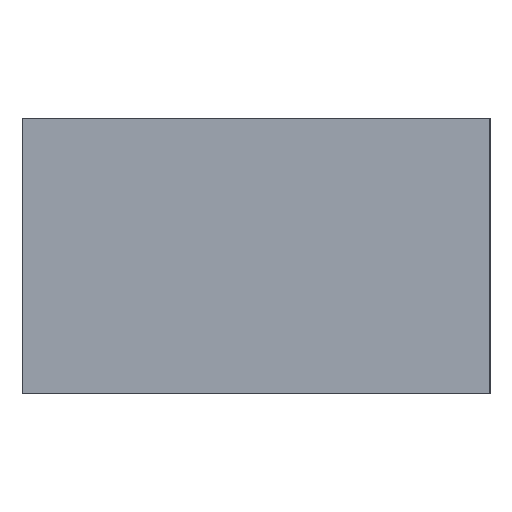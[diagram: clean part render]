
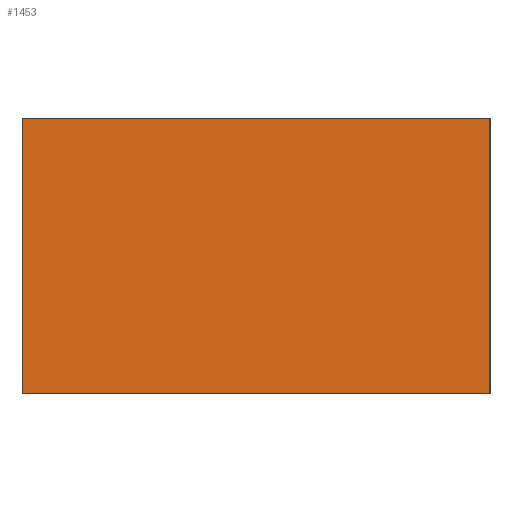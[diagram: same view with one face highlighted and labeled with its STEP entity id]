
A CAD part, left-side view. The second image highlights one B-rep face of the part: STEP entity #1453.
In plain terms, the highlighted planar face has unit normal (-1, 0, 0).
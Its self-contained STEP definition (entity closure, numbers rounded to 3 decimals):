
#446 = VERTEX_POINT ( 'NONE', #1187 ) ;
#513 = ORIENTED_EDGE ( 'NONE', *, *, #1461, .T. ) ;
#516 = VERTEX_POINT ( 'NONE', #1286 ) ;
#1187 = CARTESIAN_POINT ( 'NONE',  ( 0., 0., 0. ) ) ;
#1265 = EDGE_CURVE ( 'NONE', #1463, #446, #1284, .T. ) ;
#1278 = VECTOR ( 'NONE', #1346, 1000. ) ;
#1283 = CARTESIAN_POINT ( 'NONE',  ( 0., 0., 10. ) ) ;
#1284 = LINE ( 'NONE', #1283, #1311 ) ;
#1286 = CARTESIAN_POINT ( 'NONE',  ( 0., 17., 0. ) ) ;
#1305 = PLANE ( 'NONE',  #1345 ) ;
#1310 = DIRECTION ( 'NONE',  ( 0., 0., -1. ) ) ;
#1311 = VECTOR ( 'NONE', #1310, 1000. ) ;
#1316 = FACE_OUTER_BOUND ( 'NONE', #1449, .T. ) ;
#1323 = CARTESIAN_POINT ( 'NONE',  ( 0., 0., 10. ) ) ;
#1324 = CARTESIAN_POINT ( 'NONE',  ( 0., 17., 10. ) ) ;
#1332 = DIRECTION ( 'NONE',  ( 0., 1., 0. ) ) ;
#1333 = DIRECTION ( 'NONE',  ( 1., 0., 0. ) ) ;
#1334 = CARTESIAN_POINT ( 'NONE',  ( 0., 0., 10. ) ) ;
#1337 = CARTESIAN_POINT ( 'NONE',  ( 0., 0., 0. ) ) ;
#1338 = LINE ( 'NONE', #1337, #1362 ) ;
#1340 = DIRECTION ( 'NONE',  ( 0., 0., -1. ) ) ;
#1341 = VECTOR ( 'NONE', #1340, 1000. ) ;
#1342 = CARTESIAN_POINT ( 'NONE',  ( 0., 17., 10. ) ) ;
#1344 = LINE ( 'NONE', #1342, #1341 ) ;
#1345 = AXIS2_PLACEMENT_3D ( 'NONE', #1334, #1333, #1332 ) ;
#1346 = DIRECTION ( 'NONE',  ( 0., -1., 0. ) ) ;
#1350 = CARTESIAN_POINT ( 'NONE',  ( 0., 0., 10. ) ) ;
#1351 = LINE ( 'NONE', #1350, #1278 ) ;
#1361 = DIRECTION ( 'NONE',  ( 0., -1., 0. ) ) ;
#1362 = VECTOR ( 'NONE', #1361, 1000. ) ;
#1442 = ORIENTED_EDGE ( 'NONE', *, *, #1448, .T. ) ;
#1447 = EDGE_CURVE ( 'NONE', #1460, #1463, #1351, .T. ) ;
#1448 = EDGE_CURVE ( 'NONE', #1460, #516, #1344, .T. ) ;
#1449 = EDGE_LOOP ( 'NONE', ( #513, #1455, #1450, #1442 ) ) ;
#1450 = ORIENTED_EDGE ( 'NONE', *, *, #1447, .F. ) ;
#1453 = ADVANCED_FACE ( 'NONE', ( #1316 ), #1305, .F. ) ;
#1455 = ORIENTED_EDGE ( 'NONE', *, *, #1265, .F. ) ;
#1460 = VERTEX_POINT ( 'NONE', #1324 ) ;
#1461 = EDGE_CURVE ( 'NONE', #516, #446, #1338, .T. ) ;
#1463 = VERTEX_POINT ( 'NONE', #1323 ) ;
